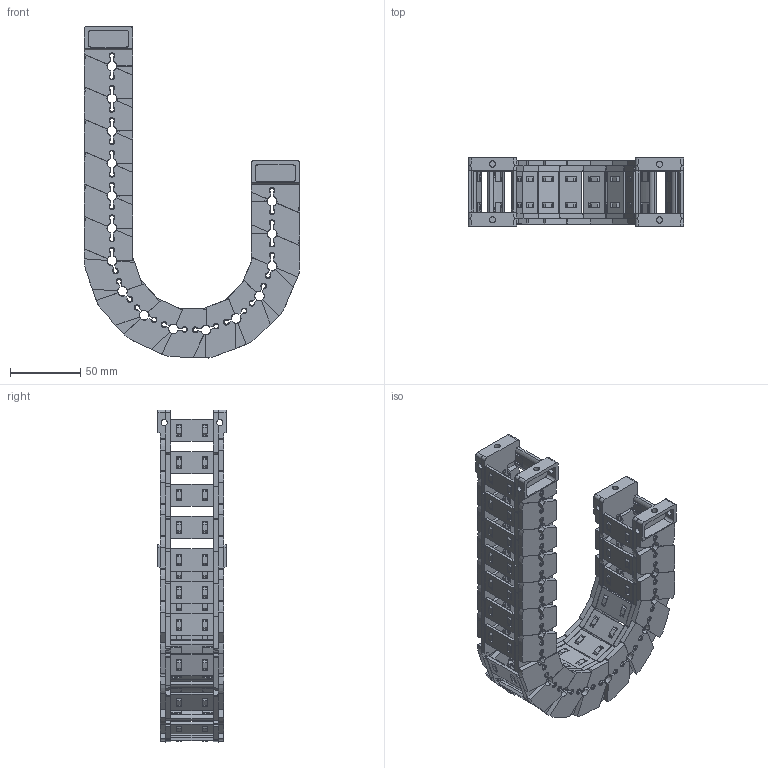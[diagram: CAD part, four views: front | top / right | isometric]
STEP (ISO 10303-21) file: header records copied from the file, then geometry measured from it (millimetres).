
FILE_DESCRIPTION((''),'2;1');
FILE_NAME('JY-28X30-R55_ASM','2026-03-26T08:10:04',('admin'),(''),'CREO PARAMETRIC BY PTC INC, 2021023','CREO PARAMETRIC BY PTC INC, 2021023','');
FILE_SCHEMA(('CONFIG_CONTROL_DESIGN'));
Length unit declared in the file: millimetre
Products named in the file (11): 28XL-L; 25-35XL-YP; 28XL-R; ASM0001_ASM; 28-LTT-A-L; 28-LTT-A-R; 28XL-LTT-A_ASM; 28-LTT-B-L; 28-LTT-B-R; 28XL-LTT-B_ASM; JY-28X30-R55_ASM
Assembly tree (29 placements, depth 3):
  JY-28X30-R55_ASM
    ASM0001_ASM  x15
      28XL-L
      25-35XL-YP
      28XL-R
    28XL-LTT-A_ASM
      28-LTT-A-L
      25-35XL-YP  x2
      28-LTT-A-R
    28XL-LTT-B_ASM
      28-LTT-B-L
      25-35XL-YP  x2
      28-LTT-B-R
Bounding box: 153.11 x 48.5 x 235.62 mm (x, y, z)
Volume: 221883.9 mm3; surface area: 163426.6 mm2
Topology: 68 solids, 68 shells, 5486 faces, 16300 edges, 10882 vertices
Faces by surface type: plane 3597, cone 973, cylinder 796, bspline 120
Entity records: 29071 total; most frequent: CARTESIAN_POINT 9487, ORIENTED_EDGE 4352, DIRECTION 3649, EDGE_CURVE 2176, VERTEX_POINT 1454, VECTOR 1365, LINE 1365, AXIS2_PLACEMENT_3D 1142
